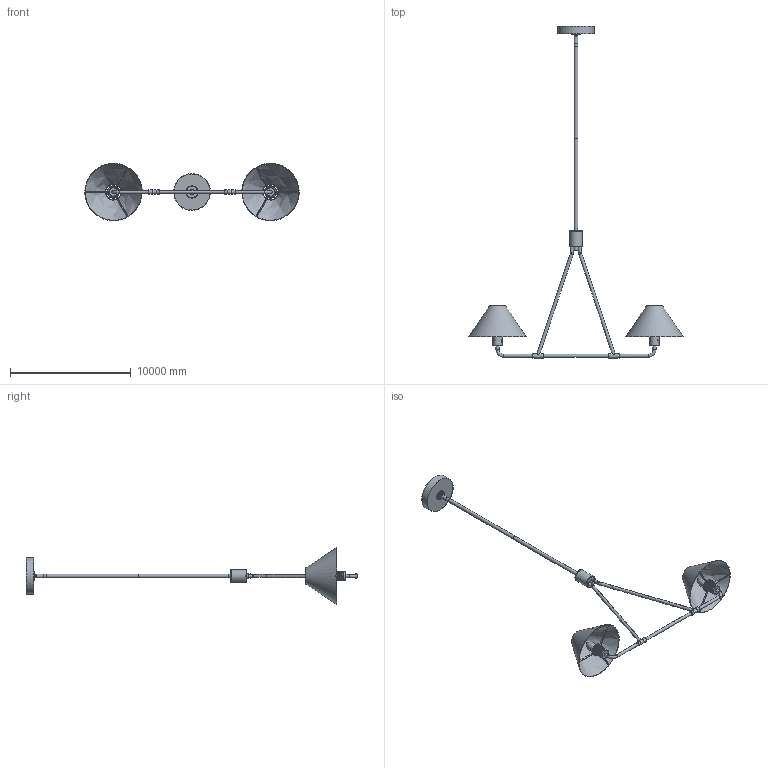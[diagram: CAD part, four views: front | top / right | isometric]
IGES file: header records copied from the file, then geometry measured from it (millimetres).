
Global section: file name: Beatrix Chandelier-2heads-L27.6″,4; native system: 8HAutoCAD 2022 - 简体中文 (Simplified Chinese); preprocessor: Autodesk Translation Framework DWG producer (atf_dwg_producer); organization: unknown; date: 20251224.092537; units: inch
Bounding box: 17780 x 27536.71 x 4745.98 mm (x, y, z)
Volume: 4681813443.4 mm3; surface area: 276612287 mm2
Topology: 40 solids, 40 shells, 328 faces, 721 edges, 489 vertices
Faces by surface type: bspline 328
